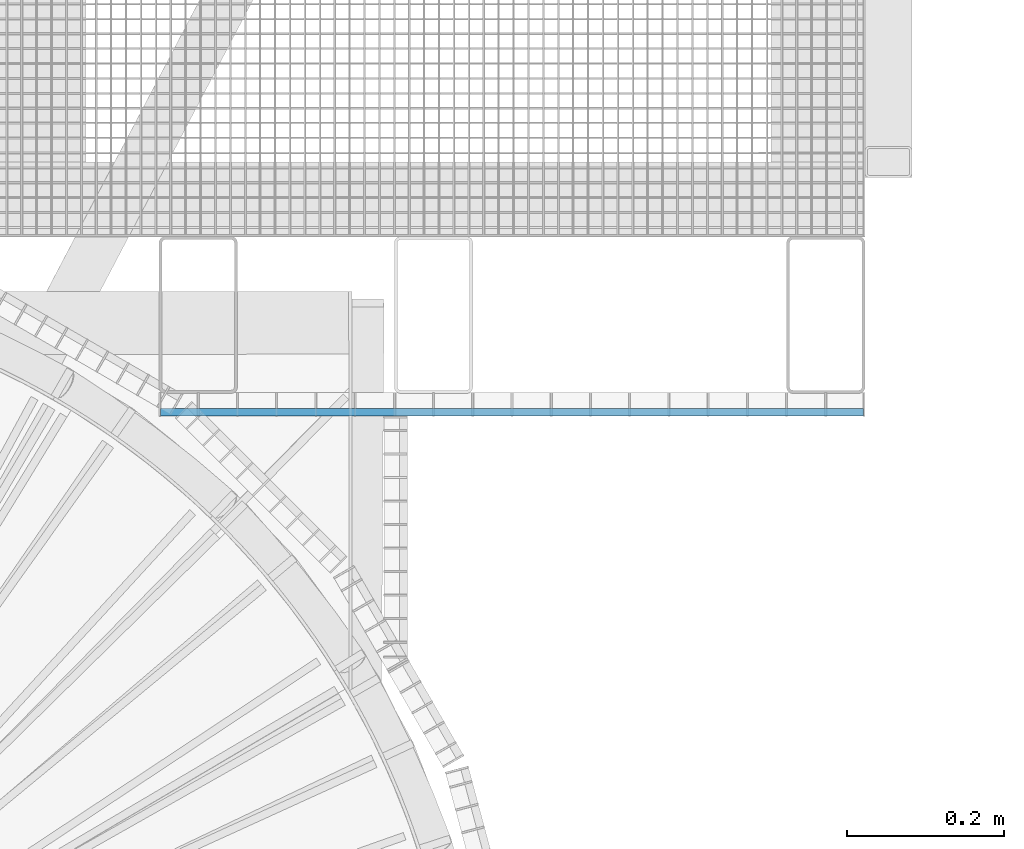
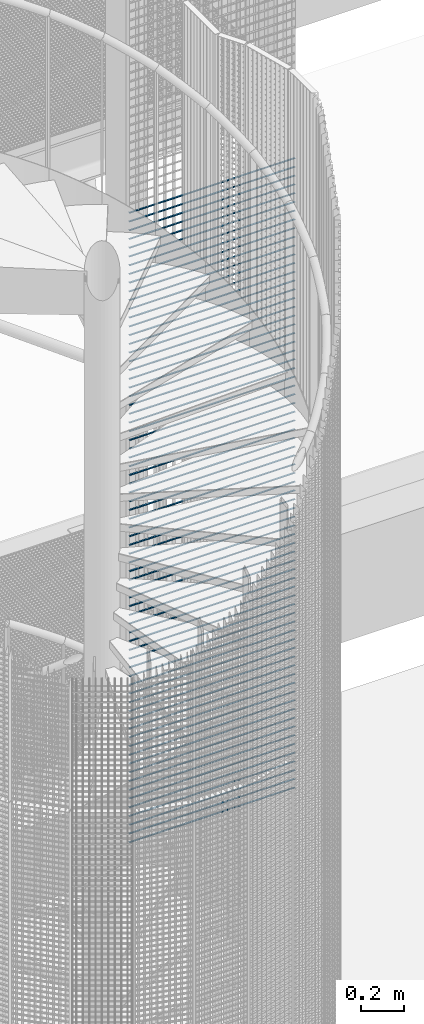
# One storey, part 292 of 1148: 73 beams, 1 element without a shape of its own.
"""IFC2X3 building model written with IfcOpenShell, lengths in millimetres."""

from ifc_helpers import new_model, si_unit, frame, origin_with_axes, origin_2d_with_axis, place, context, subcontext, project, spatial, rectangle, extrude, material, type_object, element, aggregate, save


model = new_model("IFC2X3")

# Units and contexts
model_context = context("Model", 3, precision=1e-05, world=origin_with_axes())
body_context = subcontext(model_context, "Body", "Model", "MODEL_VIEW")
ifc_project = project(units=[si_unit("LENGTHUNIT", "METRE", prefix="MILLI"), si_unit("AREAUNIT", "SQUARE_METRE"), si_unit("VOLUMEUNIT", "CUBIC_METRE"), si_unit("MASSUNIT", "GRAM", prefix="KILO"), si_unit("TIMEUNIT", "SECOND"), si_unit("PLANEANGLEUNIT", "RADIAN"), si_unit("SOLIDANGLEUNIT", "STERADIAN"), si_unit("THERMODYNAMICTEMPERATUREUNIT", "DEGREE_CELSIUS"), si_unit("LUMINOUSINTENSITYUNIT", "LUMEN")], contexts=[model_context])

# Site, building, storey
site_placement = place(None, origin_with_axes())
site = spatial("IfcSite", under=ifc_project, at=site_placement, Name="Undefined", CompositionType="ELEMENT")
building_placement = place(site_placement, origin_with_axes())
building = spatial("IfcBuilding", under=site, at=building_placement, Name="Undefined", CompositionType="ELEMENT")
storey_placement = place(building_placement, origin_with_axes())
storey = spatial("IfcBuildingStorey", under=building, at=storey_placement, Name="Undefined", CompositionType="ELEMENT", Elevation=0.0)

# Assembly, beams
assembly_placement = place(storey_placement, origin_with_axes())
assembly = element("IfcElementAssembly", 1, at=assembly_placement, inside=storey, Name="BORDURE", AssemblyPlace="NOTDEFINED", PredefinedType="NOTDEFINED")
ifc_material = material(Name="STEEL/S235JR")
beam_type = type_object("IfcBeamType", Name="PL2*10", PredefinedType="NOTDEFINED")
beam_1_placement = place(assembly_placement, frame((652.069589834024, 876.014689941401, 16889.998), z_axis=(0.0, -1.0, 0.0), x_axis=(1.0, 0.0, 0.0)))
beam_1 = element("IfcBeam", 2, at=beam_1_placement, type_object=beam_type, material=ifc_material, Name="ENTRETOISE", context=body_context, shape_type="SweptSolid", body=[
    extrude(rectangle(XDim=2.0, YDim=10.0, at=origin_2d_with_axis()), frame((896.0, 0.0, 0.0), z_axis=(-1.0, 0.0, 0.0), x_axis=(0.0, -1.0, 0.0)), (0.0, 0.0, 1.0), 896.0),
])
beam_2_placement = place(assembly_placement, frame((652.069589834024, 876.014689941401, 16839.998), z_axis=(0.0, -1.0, 0.0), x_axis=(1.0, 0.0, 0.0)))
beam_2 = element("IfcBeam", 3, at=beam_2_placement, type_object=beam_type, material=ifc_material, Name="ENTRETOISE", context=body_context, shape_type="SweptSolid", body=[
    extrude(rectangle(XDim=2.0, YDim=10.0, at=origin_2d_with_axis()), frame((896.0, 0.0, 0.0), z_axis=(-1.0, 0.0, 0.0), x_axis=(0.0, -1.0, 0.0)), (0.0, 0.0, 1.0), 896.0),
])
beam_3_placement = place(assembly_placement, frame((652.069589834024, 876.014689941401, 16789.998), z_axis=(0.0, -1.0, 0.0), x_axis=(1.0, 0.0, 0.0)))
beam_3 = element("IfcBeam", 4, at=beam_3_placement, type_object=beam_type, material=ifc_material, Name="ENTRETOISE", context=body_context, shape_type="SweptSolid", body=[
    extrude(rectangle(XDim=2.0, YDim=10.0, at=origin_2d_with_axis()), frame((896.0, 0.0, 0.0), z_axis=(-1.0, 0.0, 0.0), x_axis=(0.0, -1.0, 0.0)), (0.0, 0.0, 1.0), 896.0),
])
beam_4_placement = place(assembly_placement, frame((652.069589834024, 876.014689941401, 16739.998), z_axis=(0.0, -1.0, 0.0), x_axis=(1.0, 0.0, 0.0)))
beam_4 = element("IfcBeam", 5, at=beam_4_placement, type_object=beam_type, material=ifc_material, Name="ENTRETOISE", context=body_context, shape_type="SweptSolid", body=[
    extrude(rectangle(XDim=2.0, YDim=10.0, at=origin_2d_with_axis()), frame((896.0, 0.0, 0.0), z_axis=(-1.0, 0.0, 0.0), x_axis=(0.0, -1.0, 0.0)), (0.0, 0.0, 1.0), 896.0),
])
beam_5_placement = place(assembly_placement, frame((652.069589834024, 876.014689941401, 16689.998), z_axis=(0.0, -1.0, 0.0), x_axis=(1.0, 0.0, 0.0)))
beam_5 = element("IfcBeam", 6, at=beam_5_placement, type_object=beam_type, material=ifc_material, Name="ENTRETOISE", context=body_context, shape_type="SweptSolid", body=[
    extrude(rectangle(XDim=2.0, YDim=10.0, at=origin_2d_with_axis()), frame((896.0, 0.0, 0.0), z_axis=(-1.0, 0.0, 0.0), x_axis=(0.0, -1.0, 0.0)), (0.0, 0.0, 1.0), 896.0),
])
beam_6_placement = place(assembly_placement, frame((652.069589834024, 876.014689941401, 16639.998), z_axis=(0.0, -1.0, 0.0), x_axis=(1.0, 0.0, 0.0)))
beam_6 = element("IfcBeam", 7, at=beam_6_placement, type_object=beam_type, material=ifc_material, Name="ENTRETOISE", context=body_context, shape_type="SweptSolid", body=[
    extrude(rectangle(XDim=2.0, YDim=10.0, at=origin_2d_with_axis()), frame((896.0, 0.0, 0.0), z_axis=(-1.0, 0.0, 0.0), x_axis=(0.0, -1.0, 0.0)), (0.0, 0.0, 1.0), 896.0),
])
beam_7_placement = place(assembly_placement, frame((652.069589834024, 876.014689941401, 16589.998), z_axis=(0.0, -1.0, 0.0), x_axis=(1.0, 0.0, 0.0)))
beam_7 = element("IfcBeam", 8, at=beam_7_placement, type_object=beam_type, material=ifc_material, Name="ENTRETOISE", context=body_context, shape_type="SweptSolid", body=[
    extrude(rectangle(XDim=2.0, YDim=10.0, at=origin_2d_with_axis()), frame((896.0, 0.0, 0.0), z_axis=(-1.0, 0.0, 0.0), x_axis=(0.0, -1.0, 0.0)), (0.0, 0.0, 1.0), 896.0),
])
beam_8_placement = place(assembly_placement, frame((652.069589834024, 876.014689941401, 16539.998), z_axis=(0.0, -1.0, 0.0), x_axis=(1.0, 0.0, 0.0)))
beam_8 = element("IfcBeam", 9, at=beam_8_placement, type_object=beam_type, material=ifc_material, Name="ENTRETOISE", context=body_context, shape_type="SweptSolid", body=[
    extrude(rectangle(XDim=2.0, YDim=10.0, at=origin_2d_with_axis()), frame((896.0, 0.0, 0.0), z_axis=(-1.0, 0.0, 0.0), x_axis=(0.0, -1.0, 0.0)), (0.0, 0.0, 1.0), 896.0),
])
beam_9_placement = place(assembly_placement, frame((652.069589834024, 876.014689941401, 16489.998), z_axis=(0.0, -1.0, 0.0), x_axis=(1.0, 0.0, 0.0)))
beam_9 = element("IfcBeam", 10, at=beam_9_placement, type_object=beam_type, material=ifc_material, Name="ENTRETOISE", context=body_context, shape_type="SweptSolid", body=[
    extrude(rectangle(XDim=2.0, YDim=10.0, at=origin_2d_with_axis()), frame((896.0, 0.0, 0.0), z_axis=(-1.0, 0.0, 0.0), x_axis=(0.0, -1.0, 0.0)), (0.0, 0.0, 1.0), 896.0),
])
beam_10_placement = place(assembly_placement, frame((652.069589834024, 876.014689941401, 16439.998), z_axis=(0.0, -1.0, 0.0), x_axis=(1.0, 0.0, 0.0)))
beam_10 = element("IfcBeam", 11, at=beam_10_placement, type_object=beam_type, material=ifc_material, Name="ENTRETOISE", context=body_context, shape_type="SweptSolid", body=[
    extrude(rectangle(XDim=2.0, YDim=10.0, at=origin_2d_with_axis()), frame((896.0, 0.0, 0.0), z_axis=(-1.0, 0.0, 0.0), x_axis=(0.0, -1.0, 0.0)), (0.0, 0.0, 1.0), 896.0),
])
beam_11_placement = place(assembly_placement, frame((652.069589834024, 876.014689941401, 16389.998), z_axis=(0.0, -1.0, 0.0), x_axis=(1.0, 0.0, 0.0)))
beam_11 = element("IfcBeam", 12, at=beam_11_placement, type_object=beam_type, material=ifc_material, Name="ENTRETOISE", context=body_context, shape_type="SweptSolid", body=[
    extrude(rectangle(XDim=2.0, YDim=10.0, at=origin_2d_with_axis()), frame((896.0, 0.0, 0.0), z_axis=(-1.0, 0.0, 0.0), x_axis=(0.0, -1.0, 0.0)), (0.0, 0.0, 1.0), 896.0),
])
beam_12_placement = place(assembly_placement, frame((652.069589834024, 876.014689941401, 16339.998), z_axis=(0.0, -1.0, 0.0), x_axis=(1.0, 0.0, 0.0)))
beam_12 = element("IfcBeam", 13, at=beam_12_placement, type_object=beam_type, material=ifc_material, Name="ENTRETOISE", context=body_context, shape_type="SweptSolid", body=[
    extrude(rectangle(XDim=2.0, YDim=10.0, at=origin_2d_with_axis()), frame((896.0, 0.0, 0.0), z_axis=(-1.0, 0.0, 0.0), x_axis=(0.0, -1.0, 0.0)), (0.0, 0.0, 1.0), 896.0),
])
beam_13_placement = place(assembly_placement, frame((652.069589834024, 876.014689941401, 16289.998), z_axis=(0.0, -1.0, 0.0), x_axis=(1.0, 0.0, 0.0)))
beam_13 = element("IfcBeam", 14, at=beam_13_placement, type_object=beam_type, material=ifc_material, Name="ENTRETOISE", context=body_context, shape_type="SweptSolid", body=[
    extrude(rectangle(XDim=2.0, YDim=10.0, at=origin_2d_with_axis()), frame((896.0, 0.0, 0.0), z_axis=(-1.0, 0.0, 0.0), x_axis=(0.0, -1.0, 0.0)), (0.0, 0.0, 1.0), 896.0),
])
beam_14_placement = place(assembly_placement, frame((652.069589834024, 876.014689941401, 16239.998), z_axis=(0.0, -1.0, 0.0), x_axis=(1.0, 0.0, 0.0)))
beam_14 = element("IfcBeam", 15, at=beam_14_placement, type_object=beam_type, material=ifc_material, Name="ENTRETOISE", context=body_context, shape_type="SweptSolid", body=[
    extrude(rectangle(XDim=2.0, YDim=10.0, at=origin_2d_with_axis()), frame((896.0, 0.0, 0.0), z_axis=(-1.0, 0.0, 0.0), x_axis=(0.0, -1.0, 0.0)), (0.0, 0.0, 1.0), 896.0),
])
beam_15_placement = place(assembly_placement, frame((652.069589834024, 876.014689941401, 16189.998), z_axis=(0.0, -1.0, 0.0), x_axis=(1.0, 0.0, 0.0)))
beam_15 = element("IfcBeam", 16, at=beam_15_placement, type_object=beam_type, material=ifc_material, Name="ENTRETOISE", context=body_context, shape_type="SweptSolid", body=[
    extrude(rectangle(XDim=2.0, YDim=10.0, at=origin_2d_with_axis()), frame((896.0, 0.0, 0.0), z_axis=(-1.0, 0.0, 0.0), x_axis=(0.0, -1.0, 0.0)), (0.0, 0.0, 1.0), 896.0),
])
beam_16_placement = place(assembly_placement, frame((652.069589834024, 876.014689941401, 16139.998), z_axis=(0.0, -1.0, 0.0), x_axis=(1.0, 0.0, 0.0)))
beam_16 = element("IfcBeam", 17, at=beam_16_placement, type_object=beam_type, material=ifc_material, Name="ENTRETOISE", context=body_context, shape_type="SweptSolid", body=[
    extrude(rectangle(XDim=2.0, YDim=10.0, at=origin_2d_with_axis()), frame((896.0, 0.0, 0.0), z_axis=(-1.0, 0.0, 0.0), x_axis=(0.0, -1.0, 0.0)), (0.0, 0.0, 1.0), 896.0),
])
beam_17_placement = place(assembly_placement, frame((652.069589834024, 876.014689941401, 16089.998), z_axis=(0.0, -1.0, 0.0), x_axis=(1.0, 0.0, 0.0)))
beam_17 = element("IfcBeam", 18, at=beam_17_placement, type_object=beam_type, material=ifc_material, Name="ENTRETOISE", context=body_context, shape_type="SweptSolid", body=[
    extrude(rectangle(XDim=2.0, YDim=10.0, at=origin_2d_with_axis()), frame((896.0, 0.0, 0.0), z_axis=(-1.0, 0.0, 0.0), x_axis=(0.0, -1.0, 0.0)), (0.0, 0.0, 1.0), 896.0),
])
beam_18_placement = place(assembly_placement, frame((652.069589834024, 876.014689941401, 16039.998), z_axis=(0.0, -1.0, 0.0), x_axis=(1.0, 0.0, 0.0)))
beam_18 = element("IfcBeam", 19, at=beam_18_placement, type_object=beam_type, material=ifc_material, Name="ENTRETOISE", context=body_context, shape_type="SweptSolid", body=[
    extrude(rectangle(XDim=2.0, YDim=10.0, at=origin_2d_with_axis()), frame((896.0, 0.0, 0.0), z_axis=(-1.0, 0.0, 0.0), x_axis=(0.0, -1.0, 0.0)), (0.0, 0.0, 1.0), 896.0),
])
beam_19_placement = place(assembly_placement, frame((652.069589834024, 876.014689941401, 15989.998), z_axis=(0.0, -1.0, 0.0), x_axis=(1.0, 0.0, 0.0)))
beam_19 = element("IfcBeam", 20, at=beam_19_placement, type_object=beam_type, material=ifc_material, Name="ENTRETOISE", context=body_context, shape_type="SweptSolid", body=[
    extrude(rectangle(XDim=2.0, YDim=10.0, at=origin_2d_with_axis()), frame((896.0, 0.0, 0.0), z_axis=(-1.0, 0.0, 0.0), x_axis=(0.0, -1.0, 0.0)), (0.0, 0.0, 1.0), 896.0),
])
beam_20_placement = place(assembly_placement, frame((652.069589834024, 876.014689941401, 15939.998), z_axis=(0.0, -1.0, 0.0), x_axis=(1.0, 0.0, 0.0)))
beam_20 = element("IfcBeam", 21, at=beam_20_placement, type_object=beam_type, material=ifc_material, Name="ENTRETOISE", context=body_context, shape_type="SweptSolid", body=[
    extrude(rectangle(XDim=2.0, YDim=10.0, at=origin_2d_with_axis()), frame((896.0, 0.0, 0.0), z_axis=(-1.0, 0.0, 0.0), x_axis=(0.0, -1.0, 0.0)), (0.0, 0.0, 1.0), 896.0),
])
beam_21_placement = place(assembly_placement, frame((652.069589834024, 876.014689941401, 15889.998), z_axis=(0.0, -1.0, 0.0), x_axis=(1.0, 0.0, 0.0)))
beam_21 = element("IfcBeam", 22, at=beam_21_placement, type_object=beam_type, material=ifc_material, Name="ENTRETOISE", context=body_context, shape_type="SweptSolid", body=[
    extrude(rectangle(XDim=2.0, YDim=10.0, at=origin_2d_with_axis()), frame((896.0, 0.0, 0.0), z_axis=(-1.0, 0.0, 0.0), x_axis=(0.0, -1.0, 0.0)), (0.0, 0.0, 1.0), 896.0),
])
beam_22_placement = place(assembly_placement, frame((652.069589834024, 876.014689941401, 15839.998), z_axis=(0.0, -1.0, 0.0), x_axis=(1.0, 0.0, 0.0)))
beam_22 = element("IfcBeam", 23, at=beam_22_placement, type_object=beam_type, material=ifc_material, Name="ENTRETOISE", context=body_context, shape_type="SweptSolid", body=[
    extrude(rectangle(XDim=2.0, YDim=10.0, at=origin_2d_with_axis()), frame((896.0, 0.0, 0.0), z_axis=(-1.0, 0.0, 0.0), x_axis=(0.0, -1.0, 0.0)), (0.0, 0.0, 1.0), 896.0),
])
beam_23_placement = place(assembly_placement, frame((652.069589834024, 876.014689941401, 15789.998), z_axis=(0.0, -1.0, 0.0), x_axis=(1.0, 0.0, 0.0)))
beam_23 = element("IfcBeam", 24, at=beam_23_placement, type_object=beam_type, material=ifc_material, Name="ENTRETOISE", context=body_context, shape_type="SweptSolid", body=[
    extrude(rectangle(XDim=2.0, YDim=10.0, at=origin_2d_with_axis()), frame((896.0, 0.0, 0.0), z_axis=(-1.0, 0.0, 0.0), x_axis=(0.0, -1.0, 0.0)), (0.0, 0.0, 1.0), 896.0),
])
beam_24_placement = place(assembly_placement, frame((652.069589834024, 876.014689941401, 15739.998), z_axis=(0.0, -1.0, 0.0), x_axis=(1.0, 0.0, 0.0)))
beam_24 = element("IfcBeam", 25, at=beam_24_placement, type_object=beam_type, material=ifc_material, Name="ENTRETOISE", context=body_context, shape_type="SweptSolid", body=[
    extrude(rectangle(XDim=2.0, YDim=10.0, at=origin_2d_with_axis()), frame((896.0, 0.0, 0.0), z_axis=(-1.0, 0.0, 0.0), x_axis=(0.0, -1.0, 0.0)), (0.0, 0.0, 1.0), 896.0),
])
beam_25_placement = place(assembly_placement, frame((652.069589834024, 876.014689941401, 15689.998), z_axis=(0.0, -1.0, 0.0), x_axis=(1.0, 0.0, 0.0)))
beam_25 = element("IfcBeam", 26, at=beam_25_placement, type_object=beam_type, material=ifc_material, Name="ENTRETOISE", context=body_context, shape_type="SweptSolid", body=[
    extrude(rectangle(XDim=2.0, YDim=10.0, at=origin_2d_with_axis()), frame((896.0, 0.0, 0.0), z_axis=(-1.0, 0.0, 0.0), x_axis=(0.0, -1.0, 0.0)), (0.0, 0.0, 1.0), 896.0),
])
beam_26_placement = place(assembly_placement, frame((652.069589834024, 876.014689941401, 15639.998), z_axis=(0.0, -1.0, 0.0), x_axis=(1.0, 0.0, 0.0)))
beam_26 = element("IfcBeam", 27, at=beam_26_placement, type_object=beam_type, material=ifc_material, Name="ENTRETOISE", context=body_context, shape_type="SweptSolid", body=[
    extrude(rectangle(XDim=2.0, YDim=10.0, at=origin_2d_with_axis()), frame((896.0, 0.0, 0.0), z_axis=(-1.0, 0.0, 0.0), x_axis=(0.0, -1.0, 0.0)), (0.0, 0.0, 1.0), 896.0),
])
beam_27_placement = place(assembly_placement, frame((652.069589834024, 876.014689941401, 15589.998), z_axis=(0.0, -1.0, 0.0), x_axis=(1.0, 0.0, 0.0)))
beam_27 = element("IfcBeam", 28, at=beam_27_placement, type_object=beam_type, material=ifc_material, Name="ENTRETOISE", context=body_context, shape_type="SweptSolid", body=[
    extrude(rectangle(XDim=2.0, YDim=10.0, at=origin_2d_with_axis()), frame((896.0, 0.0, 0.0), z_axis=(-1.0, 0.0, 0.0), x_axis=(0.0, -1.0, 0.0)), (0.0, 0.0, 1.0), 896.0),
])
beam_28_placement = place(assembly_placement, frame((652.069589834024, 876.014689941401, 15539.998), z_axis=(0.0, -1.0, 0.0), x_axis=(1.0, 0.0, 0.0)))
beam_28 = element("IfcBeam", 29, at=beam_28_placement, type_object=beam_type, material=ifc_material, Name="ENTRETOISE", context=body_context, shape_type="SweptSolid", body=[
    extrude(rectangle(XDim=2.0, YDim=10.0, at=origin_2d_with_axis()), frame((896.0, 0.0, 0.0), z_axis=(-1.0, 0.0, 0.0), x_axis=(0.0, -1.0, 0.0)), (0.0, 0.0, 1.0), 896.0),
])
beam_29_placement = place(assembly_placement, frame((652.069589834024, 876.014689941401, 15489.998), z_axis=(0.0, -1.0, 0.0), x_axis=(1.0, 0.0, 0.0)))
beam_29 = element("IfcBeam", 30, at=beam_29_placement, type_object=beam_type, material=ifc_material, Name="ENTRETOISE", context=body_context, shape_type="SweptSolid", body=[
    extrude(rectangle(XDim=2.0, YDim=10.0, at=origin_2d_with_axis()), frame((896.0, 0.0, 0.0), z_axis=(-1.0, 0.0, 0.0), x_axis=(0.0, -1.0, 0.0)), (0.0, 0.0, 1.0), 896.0),
])
beam_30_placement = place(assembly_placement, frame((652.069589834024, 876.014689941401, 15439.998), z_axis=(0.0, -1.0, 0.0), x_axis=(1.0, 0.0, 0.0)))
beam_30 = element("IfcBeam", 31, at=beam_30_placement, type_object=beam_type, material=ifc_material, Name="ENTRETOISE", context=body_context, shape_type="SweptSolid", body=[
    extrude(rectangle(XDim=2.0, YDim=10.0, at=origin_2d_with_axis()), frame((896.0, 0.0, 0.0), z_axis=(-1.0, 0.0, 0.0), x_axis=(0.0, -1.0, 0.0)), (0.0, 0.0, 1.0), 896.0),
])
beam_31_placement = place(assembly_placement, frame((652.069589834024, 876.014689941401, 15389.998), z_axis=(0.0, -1.0, 0.0), x_axis=(1.0, 0.0, 0.0)))
beam_31 = element("IfcBeam", 32, at=beam_31_placement, type_object=beam_type, material=ifc_material, Name="ENTRETOISE", context=body_context, shape_type="SweptSolid", body=[
    extrude(rectangle(XDim=2.0, YDim=10.0, at=origin_2d_with_axis()), frame((896.0, 0.0, 0.0), z_axis=(-1.0, 0.0, 0.0), x_axis=(0.0, -1.0, 0.0)), (0.0, 0.0, 1.0), 896.0),
])
beam_32_placement = place(assembly_placement, frame((652.069589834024, 876.014689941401, 15339.998), z_axis=(0.0, -1.0, 0.0), x_axis=(1.0, 0.0, 0.0)))
beam_32 = element("IfcBeam", 33, at=beam_32_placement, type_object=beam_type, material=ifc_material, Name="ENTRETOISE", context=body_context, shape_type="SweptSolid", body=[
    extrude(rectangle(XDim=2.0, YDim=10.0, at=origin_2d_with_axis()), frame((896.0, 0.0, 0.0), z_axis=(-1.0, 0.0, 0.0), x_axis=(0.0, -1.0, 0.0)), (0.0, 0.0, 1.0), 896.0),
])
beam_33_placement = place(assembly_placement, frame((652.069589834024, 876.014689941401, 15289.998), z_axis=(0.0, -1.0, 0.0), x_axis=(1.0, 0.0, 0.0)))
beam_33 = element("IfcBeam", 34, at=beam_33_placement, type_object=beam_type, material=ifc_material, Name="ENTRETOISE", context=body_context, shape_type="SweptSolid", body=[
    extrude(rectangle(XDim=2.0, YDim=10.0, at=origin_2d_with_axis()), frame((896.0, 0.0, 0.0), z_axis=(-1.0, 0.0, 0.0), x_axis=(0.0, -1.0, 0.0)), (0.0, 0.0, 1.0), 896.0),
])
beam_34_placement = place(assembly_placement, frame((652.069589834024, 876.014689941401, 15239.998), z_axis=(0.0, -1.0, 0.0), x_axis=(1.0, 0.0, 0.0)))
beam_34 = element("IfcBeam", 35, at=beam_34_placement, type_object=beam_type, material=ifc_material, Name="ENTRETOISE", context=body_context, shape_type="SweptSolid", body=[
    extrude(rectangle(XDim=2.0, YDim=10.0, at=origin_2d_with_axis()), frame((896.0, 0.0, 0.0), z_axis=(-1.0, 0.0, 0.0), x_axis=(0.0, -1.0, 0.0)), (0.0, 0.0, 1.0), 896.0),
])
beam_35_placement = place(assembly_placement, frame((652.069589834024, 876.014689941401, 15189.998), z_axis=(0.0, -1.0, 0.0), x_axis=(1.0, 0.0, 0.0)))
beam_35 = element("IfcBeam", 36, at=beam_35_placement, type_object=beam_type, material=ifc_material, Name="ENTRETOISE", context=body_context, shape_type="SweptSolid", body=[
    extrude(rectangle(XDim=2.0, YDim=10.0, at=origin_2d_with_axis()), frame((896.0, 0.0, 0.0), z_axis=(-1.0, 0.0, 0.0), x_axis=(0.0, -1.0, 0.0)), (0.0, 0.0, 1.0), 896.0),
])
beam_36_placement = place(assembly_placement, frame((652.069589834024, 876.014689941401, 15139.998), z_axis=(0.0, -1.0, 0.0), x_axis=(1.0, 0.0, 0.0)))
beam_36 = element("IfcBeam", 37, at=beam_36_placement, type_object=beam_type, material=ifc_material, Name="ENTRETOISE", context=body_context, shape_type="SweptSolid", body=[
    extrude(rectangle(XDim=2.0, YDim=10.0, at=origin_2d_with_axis()), frame((896.0, 0.0, 0.0), z_axis=(-1.0, 0.0, 0.0), x_axis=(0.0, -1.0, 0.0)), (0.0, 0.0, 1.0), 896.0),
])
beam_37_placement = place(assembly_placement, frame((652.069589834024, 876.014689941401, 15089.998), z_axis=(0.0, -1.0, 0.0), x_axis=(1.0, 0.0, 0.0)))
beam_37 = element("IfcBeam", 38, at=beam_37_placement, type_object=beam_type, material=ifc_material, Name="ENTRETOISE", context=body_context, shape_type="SweptSolid", body=[
    extrude(rectangle(XDim=2.0, YDim=10.0, at=origin_2d_with_axis()), frame((896.0, 0.0, 0.0), z_axis=(-1.0, 0.0, 0.0), x_axis=(0.0, -1.0, 0.0)), (0.0, 0.0, 1.0), 896.0),
])
beam_38_placement = place(assembly_placement, frame((652.069589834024, 876.014689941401, 15039.998), z_axis=(0.0, -1.0, 0.0), x_axis=(1.0, 0.0, 0.0)))
beam_38 = element("IfcBeam", 39, at=beam_38_placement, type_object=beam_type, material=ifc_material, Name="ENTRETOISE", context=body_context, shape_type="SweptSolid", body=[
    extrude(rectangle(XDim=2.0, YDim=10.0, at=origin_2d_with_axis()), frame((896.0, 0.0, 0.0), z_axis=(-1.0, 0.0, 0.0), x_axis=(0.0, -1.0, 0.0)), (0.0, 0.0, 1.0), 896.0),
])
beam_39_placement = place(assembly_placement, frame((652.069589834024, 876.014689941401, 14989.998), z_axis=(0.0, -1.0, 0.0), x_axis=(1.0, 0.0, 0.0)))
beam_39 = element("IfcBeam", 40, at=beam_39_placement, type_object=beam_type, material=ifc_material, Name="ENTRETOISE", context=body_context, shape_type="SweptSolid", body=[
    extrude(rectangle(XDim=2.0, YDim=10.0, at=origin_2d_with_axis()), frame((896.0, 0.0, 0.0), z_axis=(-1.0, 0.0, 0.0), x_axis=(0.0, -1.0, 0.0)), (0.0, 0.0, 1.0), 896.0),
])
beam_40_placement = place(assembly_placement, frame((652.069589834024, 876.014689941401, 14939.998), z_axis=(0.0, -1.0, 0.0), x_axis=(1.0, 0.0, 0.0)))
beam_40 = element("IfcBeam", 41, at=beam_40_placement, type_object=beam_type, material=ifc_material, Name="ENTRETOISE", context=body_context, shape_type="SweptSolid", body=[
    extrude(rectangle(XDim=2.0, YDim=10.0, at=origin_2d_with_axis()), frame((896.0, 0.0, 0.0), z_axis=(-1.0, 0.0, 0.0), x_axis=(0.0, -1.0, 0.0)), (0.0, 0.0, 1.0), 896.0),
])
beam_41_placement = place(assembly_placement, frame((652.069589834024, 876.014689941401, 14889.998), z_axis=(0.0, -1.0, 0.0), x_axis=(1.0, 0.0, 0.0)))
beam_41 = element("IfcBeam", 42, at=beam_41_placement, type_object=beam_type, material=ifc_material, Name="ENTRETOISE", context=body_context, shape_type="SweptSolid", body=[
    extrude(rectangle(XDim=2.0, YDim=10.0, at=origin_2d_with_axis()), frame((896.0, 0.0, 0.0), z_axis=(-1.0, 0.0, 0.0), x_axis=(0.0, -1.0, 0.0)), (0.0, 0.0, 1.0), 896.0),
])
beam_42_placement = place(assembly_placement, frame((652.069589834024, 876.014689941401, 14839.998), z_axis=(0.0, -1.0, 0.0), x_axis=(1.0, 0.0, 0.0)))
beam_42 = element("IfcBeam", 43, at=beam_42_placement, type_object=beam_type, material=ifc_material, Name="ENTRETOISE", context=body_context, shape_type="SweptSolid", body=[
    extrude(rectangle(XDim=2.0, YDim=10.0, at=origin_2d_with_axis()), frame((896.0, 0.0, 0.0), z_axis=(-1.0, 0.0, 0.0), x_axis=(0.0, -1.0, 0.0)), (0.0, 0.0, 1.0), 896.0),
])
beam_43_placement = place(assembly_placement, frame((652.069589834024, 876.014689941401, 14789.998), z_axis=(0.0, -1.0, 0.0), x_axis=(1.0, 0.0, 0.0)))
beam_43 = element("IfcBeam", 44, at=beam_43_placement, type_object=beam_type, material=ifc_material, Name="ENTRETOISE", context=body_context, shape_type="SweptSolid", body=[
    extrude(rectangle(XDim=2.0, YDim=10.0, at=origin_2d_with_axis()), frame((896.0, 0.0, 0.0), z_axis=(-1.0, 0.0, 0.0), x_axis=(0.0, -1.0, 0.0)), (0.0, 0.0, 1.0), 896.0),
])
beam_44_placement = place(assembly_placement, frame((652.069589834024, 876.014689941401, 14739.998), z_axis=(0.0, -1.0, 0.0), x_axis=(1.0, 0.0, 0.0)))
beam_44 = element("IfcBeam", 45, at=beam_44_placement, type_object=beam_type, material=ifc_material, Name="ENTRETOISE", context=body_context, shape_type="SweptSolid", body=[
    extrude(rectangle(XDim=2.0, YDim=10.0, at=origin_2d_with_axis()), frame((896.0, 0.0, 0.0), z_axis=(-1.0, 0.0, 0.0), x_axis=(0.0, -1.0, 0.0)), (0.0, 0.0, 1.0), 896.0),
])
beam_45_placement = place(assembly_placement, frame((652.069589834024, 876.014689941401, 14689.998), z_axis=(0.0, -1.0, 0.0), x_axis=(1.0, 0.0, 0.0)))
beam_45 = element("IfcBeam", 46, at=beam_45_placement, type_object=beam_type, material=ifc_material, Name="ENTRETOISE", context=body_context, shape_type="SweptSolid", body=[
    extrude(rectangle(XDim=2.0, YDim=10.0, at=origin_2d_with_axis()), frame((896.0, 0.0, 0.0), z_axis=(-1.0, 0.0, 0.0), x_axis=(0.0, -1.0, 0.0)), (0.0, 0.0, 1.0), 896.0),
])
beam_46_placement = place(assembly_placement, frame((652.069589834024, 876.014689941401, 14639.998), z_axis=(0.0, -1.0, 0.0), x_axis=(1.0, 0.0, 0.0)))
beam_46 = element("IfcBeam", 47, at=beam_46_placement, type_object=beam_type, material=ifc_material, Name="ENTRETOISE", context=body_context, shape_type="SweptSolid", body=[
    extrude(rectangle(XDim=2.0, YDim=10.0, at=origin_2d_with_axis()), frame((896.0, 0.0, 0.0), z_axis=(-1.0, 0.0, 0.0), x_axis=(0.0, -1.0, 0.0)), (0.0, 0.0, 1.0), 896.0),
])
beam_47_placement = place(assembly_placement, frame((652.069589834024, 876.014689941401, 14589.998), z_axis=(0.0, -1.0, 0.0), x_axis=(1.0, 0.0, 0.0)))
beam_47 = element("IfcBeam", 48, at=beam_47_placement, type_object=beam_type, material=ifc_material, Name="ENTRETOISE", context=body_context, shape_type="SweptSolid", body=[
    extrude(rectangle(XDim=2.0, YDim=10.0, at=origin_2d_with_axis()), frame((896.0, 0.0, 0.0), z_axis=(-1.0, 0.0, 0.0), x_axis=(0.0, -1.0, 0.0)), (0.0, 0.0, 1.0), 896.0),
])
beam_48_placement = place(assembly_placement, frame((652.069589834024, 876.014689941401, 14539.998), z_axis=(0.0, -1.0, 0.0), x_axis=(1.0, 0.0, 0.0)))
beam_48 = element("IfcBeam", 49, at=beam_48_placement, type_object=beam_type, material=ifc_material, Name="ENTRETOISE", context=body_context, shape_type="SweptSolid", body=[
    extrude(rectangle(XDim=2.0, YDim=10.0, at=origin_2d_with_axis()), frame((896.0, 0.0, 0.0), z_axis=(-1.0, 0.0, 0.0), x_axis=(0.0, -1.0, 0.0)), (0.0, 0.0, 1.0), 896.0),
])
beam_49_placement = place(assembly_placement, frame((652.069589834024, 876.014689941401, 14489.998), z_axis=(0.0, -1.0, 0.0), x_axis=(1.0, 0.0, 0.0)))
beam_49 = element("IfcBeam", 50, at=beam_49_placement, type_object=beam_type, material=ifc_material, Name="ENTRETOISE", context=body_context, shape_type="SweptSolid", body=[
    extrude(rectangle(XDim=2.0, YDim=10.0, at=origin_2d_with_axis()), frame((896.0, 0.0, 0.0), z_axis=(-1.0, 0.0, 0.0), x_axis=(0.0, -1.0, 0.0)), (0.0, 0.0, 1.0), 896.0),
])
beam_50_placement = place(assembly_placement, frame((652.069589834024, 876.014689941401, 14439.998), z_axis=(0.0, -1.0, 0.0), x_axis=(1.0, 0.0, 0.0)))
beam_50 = element("IfcBeam", 51, at=beam_50_placement, type_object=beam_type, material=ifc_material, Name="ENTRETOISE", context=body_context, shape_type="SweptSolid", body=[
    extrude(rectangle(XDim=2.0, YDim=10.0, at=origin_2d_with_axis()), frame((896.0, 0.0, 0.0), z_axis=(-1.0, 0.0, 0.0), x_axis=(0.0, -1.0, 0.0)), (0.0, 0.0, 1.0), 896.0),
])
beam_51_placement = place(assembly_placement, frame((652.069589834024, 876.014689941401, 14389.998), z_axis=(0.0, -1.0, 0.0), x_axis=(1.0, 0.0, 0.0)))
beam_51 = element("IfcBeam", 52, at=beam_51_placement, type_object=beam_type, material=ifc_material, Name="ENTRETOISE", context=body_context, shape_type="SweptSolid", body=[
    extrude(rectangle(XDim=2.0, YDim=10.0, at=origin_2d_with_axis()), frame((896.0, 0.0, 0.0), z_axis=(-1.0, 0.0, 0.0), x_axis=(0.0, -1.0, 0.0)), (0.0, 0.0, 1.0), 896.0),
])
beam_52_placement = place(assembly_placement, frame((652.069589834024, 876.014689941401, 14339.998), z_axis=(0.0, -1.0, 0.0), x_axis=(1.0, 0.0, 0.0)))
beam_52 = element("IfcBeam", 53, at=beam_52_placement, type_object=beam_type, material=ifc_material, Name="ENTRETOISE", context=body_context, shape_type="SweptSolid", body=[
    extrude(rectangle(XDim=2.0, YDim=10.0, at=origin_2d_with_axis()), frame((896.0, 0.0, 0.0), z_axis=(-1.0, 0.0, 0.0), x_axis=(0.0, -1.0, 0.0)), (0.0, 0.0, 1.0), 896.0),
])
beam_53_placement = place(assembly_placement, frame((652.069589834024, 876.014689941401, 14289.998), z_axis=(0.0, -1.0, 0.0), x_axis=(1.0, 0.0, 0.0)))
beam_53 = element("IfcBeam", 54, at=beam_53_placement, type_object=beam_type, material=ifc_material, Name="ENTRETOISE", context=body_context, shape_type="SweptSolid", body=[
    extrude(rectangle(XDim=2.0, YDim=10.0, at=origin_2d_with_axis()), frame((896.0, 0.0, 0.0), z_axis=(-1.0, 0.0, 0.0), x_axis=(0.0, -1.0, 0.0)), (0.0, 0.0, 1.0), 896.0),
])
beam_54_placement = place(assembly_placement, frame((652.069589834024, 876.014689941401, 14239.998), z_axis=(0.0, -1.0, 0.0), x_axis=(1.0, 0.0, 0.0)))
beam_54 = element("IfcBeam", 55, at=beam_54_placement, type_object=beam_type, material=ifc_material, Name="ENTRETOISE", context=body_context, shape_type="SweptSolid", body=[
    extrude(rectangle(XDim=2.0, YDim=10.0, at=origin_2d_with_axis()), frame((896.0, 0.0, 0.0), z_axis=(-1.0, 0.0, 0.0), x_axis=(0.0, -1.0, 0.0)), (0.0, 0.0, 1.0), 896.0),
])
beam_55_placement = place(assembly_placement, frame((652.069589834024, 876.014689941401, 14189.998), z_axis=(0.0, -1.0, 0.0), x_axis=(1.0, 0.0, 0.0)))
beam_55 = element("IfcBeam", 56, at=beam_55_placement, type_object=beam_type, material=ifc_material, Name="ENTRETOISE", context=body_context, shape_type="SweptSolid", body=[
    extrude(rectangle(XDim=2.0, YDim=10.0, at=origin_2d_with_axis()), frame((896.0, 0.0, 0.0), z_axis=(-1.0, 0.0, 0.0), x_axis=(0.0, -1.0, 0.0)), (0.0, 0.0, 1.0), 896.0),
])
beam_56_placement = place(assembly_placement, frame((652.069589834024, 876.014689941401, 14139.998), z_axis=(0.0, -1.0, 0.0), x_axis=(1.0, 0.0, 0.0)))
beam_56 = element("IfcBeam", 57, at=beam_56_placement, type_object=beam_type, material=ifc_material, Name="ENTRETOISE", context=body_context, shape_type="SweptSolid", body=[
    extrude(rectangle(XDim=2.0, YDim=10.0, at=origin_2d_with_axis()), frame((896.0, 0.0, 0.0), z_axis=(-1.0, 0.0, 0.0), x_axis=(0.0, -1.0, 0.0)), (0.0, 0.0, 1.0), 896.0),
])
beam_57_placement = place(assembly_placement, frame((652.069589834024, 876.014689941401, 14089.998), z_axis=(0.0, -1.0, 0.0), x_axis=(1.0, 0.0, 0.0)))
beam_57 = element("IfcBeam", 58, at=beam_57_placement, type_object=beam_type, material=ifc_material, Name="ENTRETOISE", context=body_context, shape_type="SweptSolid", body=[
    extrude(rectangle(XDim=2.0, YDim=10.0, at=origin_2d_with_axis()), frame((896.0, 0.0, 0.0), z_axis=(-1.0, 0.0, 0.0), x_axis=(0.0, -1.0, 0.0)), (0.0, 0.0, 1.0), 896.0),
])
beam_58_placement = place(assembly_placement, frame((652.069589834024, 876.014689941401, 14039.998), z_axis=(0.0, -1.0, 0.0), x_axis=(1.0, 0.0, 0.0)))
beam_58 = element("IfcBeam", 59, at=beam_58_placement, type_object=beam_type, material=ifc_material, Name="ENTRETOISE", context=body_context, shape_type="SweptSolid", body=[
    extrude(rectangle(XDim=2.0, YDim=10.0, at=origin_2d_with_axis()), frame((896.0, 0.0, 0.0), z_axis=(-1.0, 0.0, 0.0), x_axis=(0.0, -1.0, 0.0)), (0.0, 0.0, 1.0), 896.0),
])
beam_59_placement = place(assembly_placement, frame((652.069589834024, 876.014689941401, 13989.998), z_axis=(0.0, -1.0, 0.0), x_axis=(1.0, 0.0, 0.0)))
beam_59 = element("IfcBeam", 60, at=beam_59_placement, type_object=beam_type, material=ifc_material, Name="ENTRETOISE", context=body_context, shape_type="SweptSolid", body=[
    extrude(rectangle(XDim=2.0, YDim=10.0, at=origin_2d_with_axis()), frame((896.0, 0.0, 0.0), z_axis=(-1.0, 0.0, 0.0), x_axis=(0.0, -1.0, 0.0)), (0.0, 0.0, 1.0), 896.0),
])
beam_60_placement = place(assembly_placement, frame((652.069589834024, 876.014689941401, 13939.998), z_axis=(0.0, -1.0, 0.0), x_axis=(1.0, 0.0, 0.0)))
beam_60 = element("IfcBeam", 61, at=beam_60_placement, type_object=beam_type, material=ifc_material, Name="ENTRETOISE", context=body_context, shape_type="SweptSolid", body=[
    extrude(rectangle(XDim=2.0, YDim=10.0, at=origin_2d_with_axis()), frame((896.0, 0.0, 0.0), z_axis=(-1.0, 0.0, 0.0), x_axis=(0.0, -1.0, 0.0)), (0.0, 0.0, 1.0), 896.0),
])
beam_61_placement = place(assembly_placement, frame((652.069589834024, 876.014689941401, 13889.998), z_axis=(0.0, -1.0, 0.0), x_axis=(1.0, 0.0, 0.0)))
beam_61 = element("IfcBeam", 62, at=beam_61_placement, type_object=beam_type, material=ifc_material, Name="ENTRETOISE", context=body_context, shape_type="SweptSolid", body=[
    extrude(rectangle(XDim=2.0, YDim=10.0, at=origin_2d_with_axis()), frame((896.0, 0.0, 0.0), z_axis=(-1.0, 0.0, 0.0), x_axis=(0.0, -1.0, 0.0)), (0.0, 0.0, 1.0), 896.0),
])
beam_62_placement = place(assembly_placement, frame((652.069589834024, 876.014689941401, 13839.998), z_axis=(0.0, -1.0, 0.0), x_axis=(1.0, 0.0, 0.0)))
beam_62 = element("IfcBeam", 63, at=beam_62_placement, type_object=beam_type, material=ifc_material, Name="ENTRETOISE", context=body_context, shape_type="SweptSolid", body=[
    extrude(rectangle(XDim=2.0, YDim=10.0, at=origin_2d_with_axis()), frame((896.0, 0.0, 0.0), z_axis=(-1.0, 0.0, 0.0), x_axis=(0.0, -1.0, 0.0)), (0.0, 0.0, 1.0), 896.0),
])
beam_63_placement = place(assembly_placement, frame((652.069589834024, 876.014689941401, 13789.998), z_axis=(0.0, -1.0, 0.0), x_axis=(1.0, 0.0, 0.0)))
beam_63 = element("IfcBeam", 64, at=beam_63_placement, type_object=beam_type, material=ifc_material, Name="ENTRETOISE", context=body_context, shape_type="SweptSolid", body=[
    extrude(rectangle(XDim=2.0, YDim=10.0, at=origin_2d_with_axis()), frame((896.0, 0.0, 0.0), z_axis=(-1.0, 0.0, 0.0), x_axis=(0.0, -1.0, 0.0)), (0.0, 0.0, 1.0), 896.0),
])
beam_64_placement = place(assembly_placement, frame((652.069589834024, 876.014689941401, 13739.998), z_axis=(0.0, -1.0, 0.0), x_axis=(1.0, 0.0, 0.0)))
beam_64 = element("IfcBeam", 65, at=beam_64_placement, type_object=beam_type, material=ifc_material, Name="ENTRETOISE", context=body_context, shape_type="SweptSolid", body=[
    extrude(rectangle(XDim=2.0, YDim=10.0, at=origin_2d_with_axis()), frame((896.0, 0.0, 0.0), z_axis=(-1.0, 0.0, 0.0), x_axis=(0.0, -1.0, 0.0)), (0.0, 0.0, 1.0), 896.0),
])
beam_65_placement = place(assembly_placement, frame((652.069589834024, 876.014689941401, 13689.998), z_axis=(0.0, -1.0, 0.0), x_axis=(1.0, 0.0, 0.0)))
beam_65 = element("IfcBeam", 66, at=beam_65_placement, type_object=beam_type, material=ifc_material, Name="ENTRETOISE", context=body_context, shape_type="SweptSolid", body=[
    extrude(rectangle(XDim=2.0, YDim=10.0, at=origin_2d_with_axis()), frame((896.0, 0.0, 0.0), z_axis=(-1.0, 0.0, 0.0), x_axis=(0.0, -1.0, 0.0)), (0.0, 0.0, 1.0), 896.0),
])
beam_66_placement = place(assembly_placement, frame((652.069589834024, 876.014689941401, 13639.998), z_axis=(0.0, -1.0, 0.0), x_axis=(1.0, 0.0, 0.0)))
beam_66 = element("IfcBeam", 67, at=beam_66_placement, type_object=beam_type, material=ifc_material, Name="ENTRETOISE", context=body_context, shape_type="SweptSolid", body=[
    extrude(rectangle(XDim=2.0, YDim=10.0, at=origin_2d_with_axis()), frame((896.0, 0.0, 0.0), z_axis=(-1.0, 0.0, 0.0), x_axis=(0.0, -1.0, 0.0)), (0.0, 0.0, 1.0), 896.0),
])
beam_67_placement = place(assembly_placement, frame((652.069589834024, 876.014689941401, 13589.998), z_axis=(0.0, -1.0, 0.0), x_axis=(1.0, 0.0, 0.0)))
beam_67 = element("IfcBeam", 68, at=beam_67_placement, type_object=beam_type, material=ifc_material, Name="ENTRETOISE", context=body_context, shape_type="SweptSolid", body=[
    extrude(rectangle(XDim=2.0, YDim=10.0, at=origin_2d_with_axis()), frame((896.0, 0.0, 0.0), z_axis=(-1.0, 0.0, 0.0), x_axis=(0.0, -1.0, 0.0)), (0.0, 0.0, 1.0), 896.0),
])
beam_68_placement = place(assembly_placement, frame((652.069589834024, 876.014689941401, 13539.998), z_axis=(0.0, -1.0, 0.0), x_axis=(1.0, 0.0, 0.0)))
beam_68 = element("IfcBeam", 69, at=beam_68_placement, type_object=beam_type, material=ifc_material, Name="ENTRETOISE", context=body_context, shape_type="SweptSolid", body=[
    extrude(rectangle(XDim=2.0, YDim=10.0, at=origin_2d_with_axis()), frame((896.0, 0.0, 0.0), z_axis=(-1.0, 0.0, 0.0), x_axis=(0.0, -1.0, 0.0)), (0.0, 0.0, 1.0), 896.0),
])
beam_69_placement = place(assembly_placement, frame((652.069589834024, 876.014689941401, 13489.998), z_axis=(0.0, -1.0, 0.0), x_axis=(1.0, 0.0, 0.0)))
beam_69 = element("IfcBeam", 70, at=beam_69_placement, type_object=beam_type, material=ifc_material, Name="ENTRETOISE", context=body_context, shape_type="SweptSolid", body=[
    extrude(rectangle(XDim=2.0, YDim=10.0, at=origin_2d_with_axis()), frame((896.0, 0.0, 0.0), z_axis=(-1.0, 0.0, 0.0), x_axis=(0.0, -1.0, 0.0)), (0.0, 0.0, 1.0), 896.0),
])
beam_70_placement = place(assembly_placement, frame((652.069589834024, 876.014689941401, 13439.998), z_axis=(0.0, -1.0, 0.0), x_axis=(1.0, 0.0, 0.0)))
beam_70 = element("IfcBeam", 71, at=beam_70_placement, type_object=beam_type, material=ifc_material, Name="ENTRETOISE", context=body_context, shape_type="SweptSolid", body=[
    extrude(rectangle(XDim=2.0, YDim=10.0, at=origin_2d_with_axis()), frame((896.0, 0.0, 0.0), z_axis=(-1.0, 0.0, 0.0), x_axis=(0.0, -1.0, 0.0)), (0.0, 0.0, 1.0), 896.0),
])
beam_71_placement = place(assembly_placement, frame((652.069589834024, 876.014689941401, 13389.998), z_axis=(0.0, -1.0, 0.0), x_axis=(1.0, 0.0, 0.0)))
beam_71 = element("IfcBeam", 72, at=beam_71_placement, type_object=beam_type, material=ifc_material, Name="ENTRETOISE", context=body_context, shape_type="SweptSolid", body=[
    extrude(rectangle(XDim=2.0, YDim=10.0, at=origin_2d_with_axis()), frame((896.0, 0.0, 0.0), z_axis=(-1.0, 0.0, 0.0), x_axis=(0.0, -1.0, 0.0)), (0.0, 0.0, 1.0), 896.0),
])
beam_72_placement = place(assembly_placement, frame((652.069589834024, 876.014689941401, 13339.998), z_axis=(0.0, -1.0, 0.0), x_axis=(1.0, 0.0, 0.0)))
beam_72 = element("IfcBeam", 73, at=beam_72_placement, type_object=beam_type, material=ifc_material, Name="ENTRETOISE", context=body_context, shape_type="SweptSolid", body=[
    extrude(rectangle(XDim=2.0, YDim=10.0, at=origin_2d_with_axis()), frame((896.0, 0.0, 0.0), z_axis=(-1.0, 0.0, 0.0), x_axis=(0.0, -1.0, 0.0)), (0.0, 0.0, 1.0), 896.0),
])
beam_73_placement = place(assembly_placement, frame((652.069589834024, 876.014689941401, 13289.998), z_axis=(0.0, -1.0, 0.0), x_axis=(1.0, 0.0, 0.0)))
beam_73 = element("IfcBeam", 74, at=beam_73_placement, type_object=beam_type, material=ifc_material, Name="ENTRETOISE", context=body_context, shape_type="SweptSolid", body=[
    extrude(rectangle(XDim=2.0, YDim=10.0, at=origin_2d_with_axis()), frame((896.0, 0.0, 0.0), z_axis=(-1.0, 0.0, 0.0), x_axis=(0.0, -1.0, 0.0)), (0.0, 0.0, 1.0), 896.0),
])
aggregate(assembly, [beam_1, beam_2, beam_3, beam_4, beam_5, beam_6, beam_7, beam_8, beam_9, beam_10, beam_11, beam_12, beam_13, beam_14, beam_15, beam_16, beam_17, beam_18, beam_19, beam_20, beam_21, beam_22, beam_23, beam_24, beam_25, beam_26, beam_27, beam_28, beam_29, beam_30, beam_31, beam_32, beam_33, beam_34, beam_35, beam_36, beam_37, beam_38, beam_39, beam_40, beam_41, beam_42, beam_43, beam_44, beam_45, beam_46, beam_47, beam_48, beam_49, beam_50, beam_51, beam_52, beam_53, beam_54, beam_55, beam_56, beam_57, beam_58, beam_59, beam_60, beam_61, beam_62, beam_63, beam_64, beam_65, beam_66, beam_67, beam_68, beam_69, beam_70, beam_71, beam_72, beam_73])

save(model, "model.ifc")
